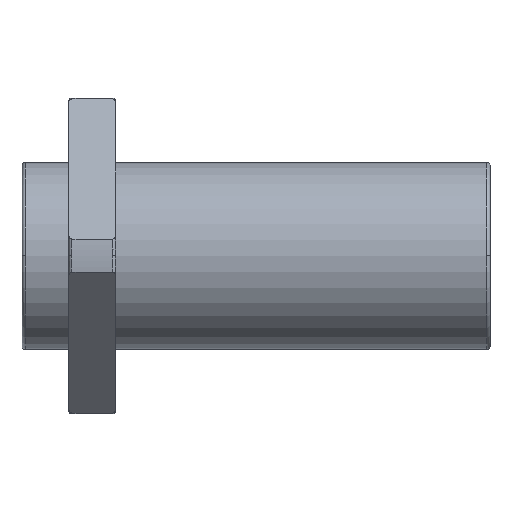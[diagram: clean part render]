
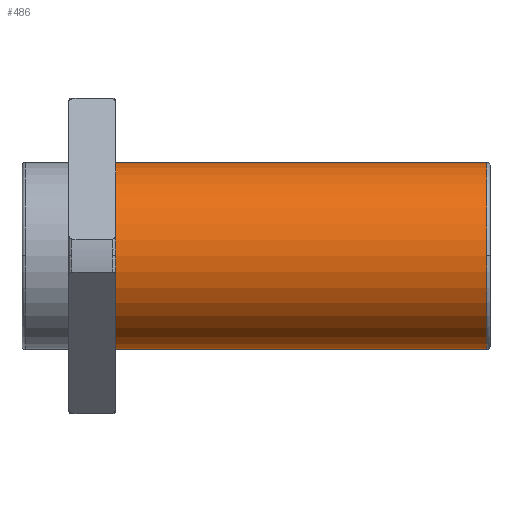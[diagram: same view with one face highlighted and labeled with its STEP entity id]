
A CAD part, top view. The second image highlights one B-rep face of the part: STEP entity #486.
In plain terms, the highlighted cylindrical face has radius 16 mm (diameter 32 mm), a partial arc.
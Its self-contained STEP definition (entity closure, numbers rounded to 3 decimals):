
#335 = TOROIDAL_SURFACE('',#336,15.46,0.54);
#336 = AXIS2_PLACEMENT_3D('',#337,#338,#339);
#337 = CARTESIAN_POINT('',(79.46,0.,0.));
#338 = DIRECTION('',(1.,0.,0.));
#339 = DIRECTION('',(0.,0.,-1.));
#347 = TOROIDAL_SURFACE('',#348,15.46,0.54);
#348 = AXIS2_PLACEMENT_3D('',#349,#350,#351);
#349 = CARTESIAN_POINT('',(79.46,0.,0.));
#350 = DIRECTION('',(1.,0.,0.));
#351 = DIRECTION('',(0.,0.,-1.));
#360 = VERTEX_POINT('',#361);
#361 = CARTESIAN_POINT('',(79.46,16.,0.));
#376 = CYLINDRICAL_SURFACE('',#377,16.);
#377 = AXIS2_PLACEMENT_3D('',#378,#379,#380);
#378 = CARTESIAN_POINT('',(47.73,0.,0.));
#379 = DIRECTION('',(1.,0.,0.));
#380 = DIRECTION('',(-0.,1.,0.));
#388 = EDGE_CURVE('',#360,#389,#391,.T.);
#389 = VERTEX_POINT('',#390);
#390 = CARTESIAN_POINT('',(79.46,0.,16.));
#391 = SURFACE_CURVE('',#392,(#397,#404),.PCURVE_S1.);
#392 = CIRCLE('',#393,16.);
#393 = AXIS2_PLACEMENT_3D('',#394,#395,#396);
#394 = CARTESIAN_POINT('',(79.46,0.,0.));
#395 = DIRECTION('',(1.,0.,0.));
#396 = DIRECTION('',(-0.,1.,0.));
#397 = PCURVE('',#335,#398);
#398 = DEFINITIONAL_REPRESENTATION('',(#399),#403);
#399 = LINE('',#400,#401);
#400 = CARTESIAN_POINT('',(1.571,0.));
#401 = VECTOR('',#402,1.);
#402 = DIRECTION('',(1.,0.));
#403 = ( GEOMETRIC_REPRESENTATION_CONTEXT(2) 
PARAMETRIC_REPRESENTATION_CONTEXT() REPRESENTATION_CONTEXT('2D SPACE',''
  ) );
#404 = PCURVE('',#405,#410);
#405 = CYLINDRICAL_SURFACE('',#406,16.);
#406 = AXIS2_PLACEMENT_3D('',#407,#408,#409);
#407 = CARTESIAN_POINT('',(47.73,0.,0.));
#408 = DIRECTION('',(1.,0.,0.));
#409 = DIRECTION('',(-0.,1.,0.));
#410 = DEFINITIONAL_REPRESENTATION('',(#411),#415);
#411 = LINE('',#412,#413);
#412 = CARTESIAN_POINT('',(0.,31.73));
#413 = VECTOR('',#414,1.);
#414 = DIRECTION('',(1.,0.));
#415 = ( GEOMETRIC_REPRESENTATION_CONTEXT(2) 
PARAMETRIC_REPRESENTATION_CONTEXT() REPRESENTATION_CONTEXT('2D SPACE',''
  ) );
#486 = ADVANCED_FACE('',(#487),#405,.T.);
#487 = FACE_BOUND('',#488,.T.);
#488 = EDGE_LOOP('',(#489,#512,#541,#564,#586));
#489 = ORIENTED_EDGE('',*,*,#490,.F.);
#490 = EDGE_CURVE('',#491,#360,#493,.T.);
#491 = VERTEX_POINT('',#492);
#492 = CARTESIAN_POINT('',(16.,16.,0.));
#493 = SURFACE_CURVE('',#494,(#498,#505),.PCURVE_S1.);
#494 = LINE('',#495,#496);
#495 = CARTESIAN_POINT('',(47.73,16.,0.));
#496 = VECTOR('',#497,1.);
#497 = DIRECTION('',(1.,0.,0.));
#498 = PCURVE('',#405,#499);
#499 = DEFINITIONAL_REPRESENTATION('',(#500),#504);
#500 = LINE('',#501,#502);
#501 = CARTESIAN_POINT('',(0.,0.));
#502 = VECTOR('',#503,1.);
#503 = DIRECTION('',(0.,1.));
#504 = ( GEOMETRIC_REPRESENTATION_CONTEXT(2) 
PARAMETRIC_REPRESENTATION_CONTEXT() REPRESENTATION_CONTEXT('2D SPACE',''
  ) );
#505 = PCURVE('',#376,#506);
#506 = DEFINITIONAL_REPRESENTATION('',(#507),#511);
#507 = LINE('',#508,#509);
#508 = CARTESIAN_POINT('',(6.283,0.));
#509 = VECTOR('',#510,1.);
#510 = DIRECTION('',(0.,1.));
#511 = ( GEOMETRIC_REPRESENTATION_CONTEXT(2) 
PARAMETRIC_REPRESENTATION_CONTEXT() REPRESENTATION_CONTEXT('2D SPACE',''
  ) );
#512 = ORIENTED_EDGE('',*,*,#513,.T.);
#513 = EDGE_CURVE('',#491,#514,#516,.T.);
#514 = VERTEX_POINT('',#515);
#515 = CARTESIAN_POINT('',(16.,-16.,0.));
#516 = SURFACE_CURVE('',#517,(#522,#529),.PCURVE_S1.);
#517 = CIRCLE('',#518,16.);
#518 = AXIS2_PLACEMENT_3D('',#519,#520,#521);
#519 = CARTESIAN_POINT('',(16.,0.,0.));
#520 = DIRECTION('',(1.,0.,0.));
#521 = DIRECTION('',(-0.,1.,0.));
#522 = PCURVE('',#405,#523);
#523 = DEFINITIONAL_REPRESENTATION('',(#524),#528);
#524 = LINE('',#525,#526);
#525 = CARTESIAN_POINT('',(0.,-31.73));
#526 = VECTOR('',#527,1.);
#527 = DIRECTION('',(1.,0.));
#528 = ( GEOMETRIC_REPRESENTATION_CONTEXT(2) 
PARAMETRIC_REPRESENTATION_CONTEXT() REPRESENTATION_CONTEXT('2D SPACE',''
  ) );
#529 = PCURVE('',#530,#535);
#530 = PLANE('',#531);
#531 = AXIS2_PLACEMENT_3D('',#532,#533,#534);
#532 = CARTESIAN_POINT('',(16.,21.23,0.));
#533 = DIRECTION('',(1.,0.,0.));
#534 = DIRECTION('',(0.,1.,0.));
#535 = DEFINITIONAL_REPRESENTATION('',(#536),#540);
#536 = CIRCLE('',#537,16.);
#537 = AXIS2_PLACEMENT_2D('',#538,#539);
#538 = CARTESIAN_POINT('',(-21.23,0.));
#539 = DIRECTION('',(1.,0.));
#540 = ( GEOMETRIC_REPRESENTATION_CONTEXT(2) 
PARAMETRIC_REPRESENTATION_CONTEXT() REPRESENTATION_CONTEXT('2D SPACE',''
  ) );
#541 = ORIENTED_EDGE('',*,*,#542,.F.);
#542 = EDGE_CURVE('',#543,#514,#545,.T.);
#543 = VERTEX_POINT('',#544);
#544 = CARTESIAN_POINT('',(79.46,-16.,0.));
#545 = SURFACE_CURVE('',#546,(#550,#557),.PCURVE_S1.);
#546 = LINE('',#547,#548);
#547 = CARTESIAN_POINT('',(47.73,-16.,0.));
#548 = VECTOR('',#549,1.);
#549 = DIRECTION('',(-1.,-0.,-0.));
#550 = PCURVE('',#405,#551);
#551 = DEFINITIONAL_REPRESENTATION('',(#552),#556);
#552 = LINE('',#553,#554);
#553 = CARTESIAN_POINT('',(3.142,0.));
#554 = VECTOR('',#555,1.);
#555 = DIRECTION('',(0.,-1.));
#556 = ( GEOMETRIC_REPRESENTATION_CONTEXT(2) 
PARAMETRIC_REPRESENTATION_CONTEXT() REPRESENTATION_CONTEXT('2D SPACE',''
  ) );
#557 = PCURVE('',#376,#558);
#558 = DEFINITIONAL_REPRESENTATION('',(#559),#563);
#559 = LINE('',#560,#561);
#560 = CARTESIAN_POINT('',(3.142,0.));
#561 = VECTOR('',#562,1.);
#562 = DIRECTION('',(0.,-1.));
#563 = ( GEOMETRIC_REPRESENTATION_CONTEXT(2) 
PARAMETRIC_REPRESENTATION_CONTEXT() REPRESENTATION_CONTEXT('2D SPACE',''
  ) );
#564 = ORIENTED_EDGE('',*,*,#565,.F.);
#565 = EDGE_CURVE('',#389,#543,#566,.T.);
#566 = SURFACE_CURVE('',#567,(#572,#579),.PCURVE_S1.);
#567 = CIRCLE('',#568,16.);
#568 = AXIS2_PLACEMENT_3D('',#569,#570,#571);
#569 = CARTESIAN_POINT('',(79.46,0.,0.));
#570 = DIRECTION('',(1.,0.,0.));
#571 = DIRECTION('',(-0.,1.,0.));
#572 = PCURVE('',#405,#573);
#573 = DEFINITIONAL_REPRESENTATION('',(#574),#578);
#574 = LINE('',#575,#576);
#575 = CARTESIAN_POINT('',(0.,31.73));
#576 = VECTOR('',#577,1.);
#577 = DIRECTION('',(1.,0.));
#578 = ( GEOMETRIC_REPRESENTATION_CONTEXT(2) 
PARAMETRIC_REPRESENTATION_CONTEXT() REPRESENTATION_CONTEXT('2D SPACE',''
  ) );
#579 = PCURVE('',#347,#580);
#580 = DEFINITIONAL_REPRESENTATION('',(#581),#585);
#581 = LINE('',#582,#583);
#582 = CARTESIAN_POINT('',(1.571,0.));
#583 = VECTOR('',#584,1.);
#584 = DIRECTION('',(1.,0.));
#585 = ( GEOMETRIC_REPRESENTATION_CONTEXT(2) 
PARAMETRIC_REPRESENTATION_CONTEXT() REPRESENTATION_CONTEXT('2D SPACE',''
  ) );
#586 = ORIENTED_EDGE('',*,*,#388,.F.);
